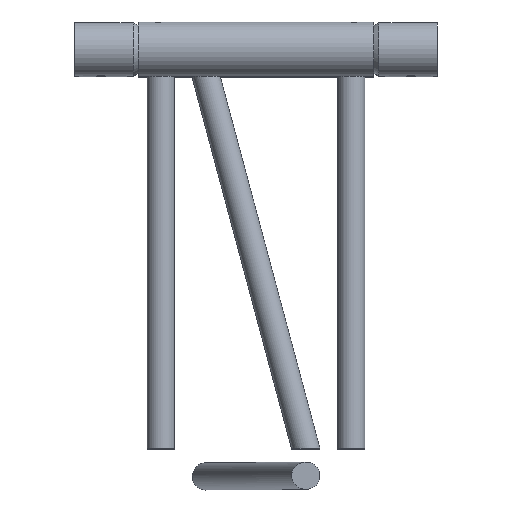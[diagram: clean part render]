
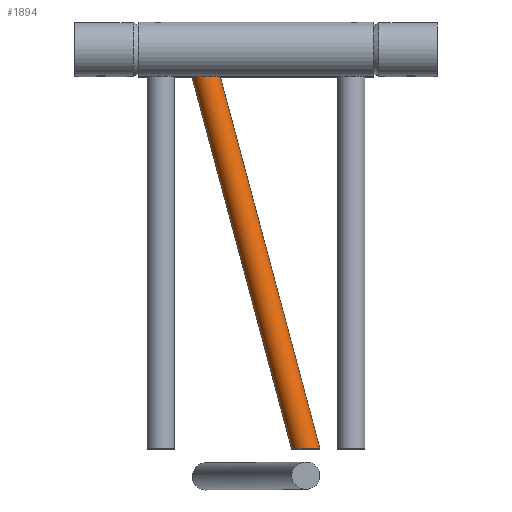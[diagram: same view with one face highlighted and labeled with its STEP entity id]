
A CAD part, top view. The second image highlights one B-rep face of the part: STEP entity #1894.
In plain terms, the highlighted cylindrical face has radius 15 mm (diameter 30 mm), a full revolution.
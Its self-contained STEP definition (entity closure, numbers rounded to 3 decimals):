
#140=FACE_BOUND('',#530,.T.);
#250=CYLINDRICAL_SURFACE('',#2127,15.);
#364=FACE_OUTER_BOUND('',#529,.T.);
#529=EDGE_LOOP('',(#1589));
#530=EDGE_LOOP('',(#1590));
#561=ELLIPSE('',#2124,15.529,15.);
#562=ELLIPSE('',#2126,15.529,15.);
#879=VERTEX_POINT('',#4163);
#880=VERTEX_POINT('',#4166);
#1117=EDGE_CURVE('',#879,#879,#561,.T.);
#1118=EDGE_CURVE('',#880,#880,#562,.T.);
#1589=ORIENTED_EDGE('',*,*,#1117,.T.);
#1590=ORIENTED_EDGE('',*,*,#1118,.T.);
#1894=ADVANCED_FACE('',(#364,#140),#250,.T.);
#2124=AXIS2_PLACEMENT_3D('',#4164,#2632,#2633);
#2126=AXIS2_PLACEMENT_3D('',#4167,#2636,#2637);
#2127=AXIS2_PLACEMENT_3D('',#4168,#2638,#2639);
#2632=DIRECTION('center_axis',(0.,1.,0.));
#2633=DIRECTION('ref_axis',(-1.,0.,0.));
#2636=DIRECTION('center_axis',(0.,-1.,0.));
#2637=DIRECTION('ref_axis',(-1.,0.,0.));
#2638=DIRECTION('center_axis',(-0.259,0.966,0.));
#2639=DIRECTION('ref_axis',(-0.966,-0.259,0.));
#4163=CARTESIAN_POINT('',(270.458,30.002,0.));
#4164=CARTESIAN_POINT('Origin',(254.929,30.002,0.));
#4166=CARTESIAN_POINT('',(129.542,439.998,0.));
#4167=CARTESIAN_POINT('Origin',(145.071,439.998,0.));
#4168=CARTESIAN_POINT('Origin',(200.,235.,0.));
